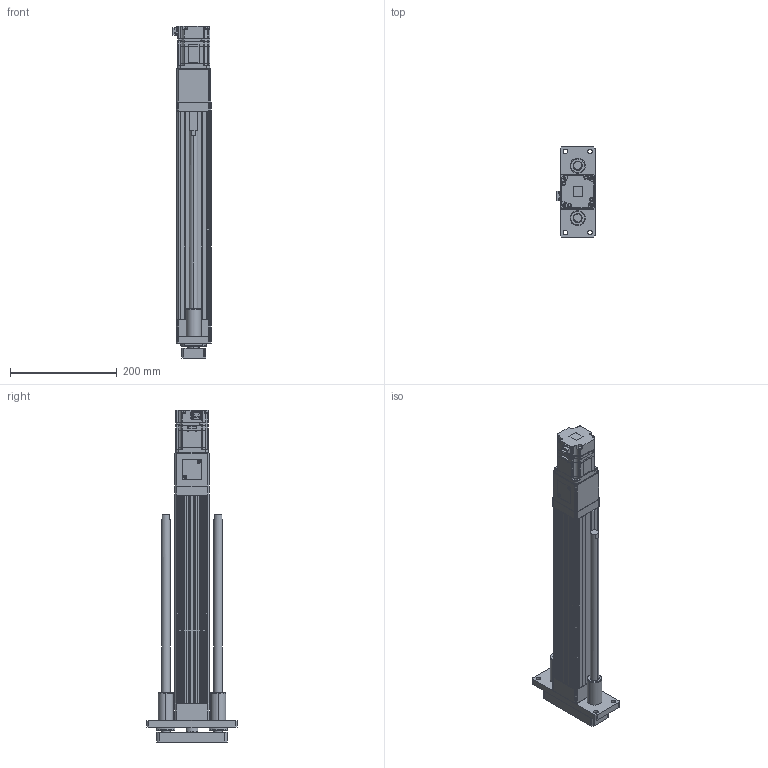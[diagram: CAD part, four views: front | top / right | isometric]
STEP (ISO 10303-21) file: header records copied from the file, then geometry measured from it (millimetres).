
FILE_DESCRIPTION (( 'STEP AP203' ), '1' );
FILE_NAME ('ANS065-GS300-05(10)-W20.STEP', '2019-02-28T08:42:36', ( 'user' ), ( '' ), 'SwSTEP 2.0', 'SolidWorks 2013', '' );
FILE_SCHEMA (( 'CONFIG_CONTROL_DESIGN' ));
Length unit declared in the file: millimetre
Products named in the file (4): ANS065 GS300 VER2; ANS065 ROD ST300 G; sgmjv_02a_a21; ANS065-GS300-05(10)-W20
Assembly tree (3 placements, depth 2):
  ANS065-GS300-05(10)-W20
    ANS065 GS300 VER2
    ANS065 ROD ST300 G
    sgmjv_02a_a21
Bounding box: 71.3 x 170 x 620.6 mm (x, y, z)
Volume: 1922843.1 mm3; surface area: 464131.7 mm2
Topology: 3 solids, 19 shells, 1500 faces, 3817 edges, 2439 vertices
Faces by surface type: plane 832, cylinder 482, cone 182, torus 4
Entity records: 45333 total; most frequent: CARTESIAN_POINT 7996, DIRECTION 7837, ORIENTED_EDGE 7570, EDGE_CURVE 3785, AXIS2_PLACEMENT_3D 2626, LINE 2585, VECTOR 2585, VERTEX_POINT 2439
